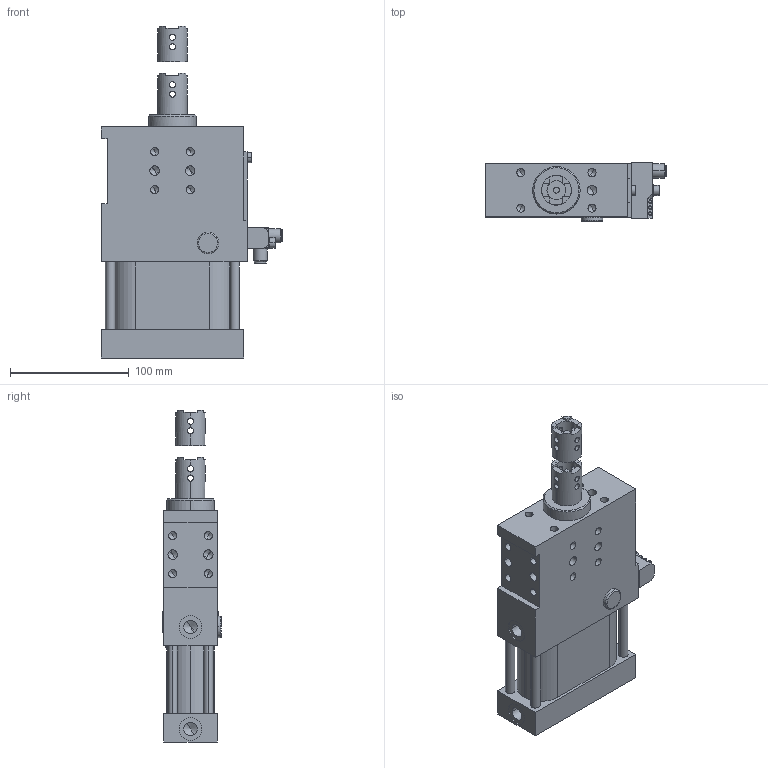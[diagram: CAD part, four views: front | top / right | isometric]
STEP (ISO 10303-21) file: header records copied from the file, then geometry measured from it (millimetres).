
FILE_DESCRIPTION(('CATIA V5 STEP Exchange','CAx-IF Rec.Pracs.--- Model Styling and Organization---1.2---2011-12-15'),'2;1');
FILE_NAME('G:\Konstruktion\Modelle\Step\SZK_63_BR3_T12_TUENKERS.stp','2016-04-22T11:20:29+00:00',('none'),('none'),'CATIA Version 5-6 Release 2014 SP1 HF29','CATIA V5 STEP AP214','none');
FILE_SCHEMA(('AUTOMOTIVE_DESIGN { 1 0 10303 214 1 1 1 1 }'));
Length unit declared in the file: millimetre
Products named in the file (1): SZK_63_BR3_T12_TUENKERS
Bounding box: 153 x 49.5 x 280 mm (x, y, z)
Volume: 1002748.3 mm3; surface area: 100934.4 mm2
Topology: 2 solids, 2 shells, 307 faces, 912 edges, 562 vertices
Faces by surface type: cylinder 128, plane 89, cone 57, sphere 24, torus 9
Entity records: 10174 total; most frequent: CARTESIAN_POINT 2524, ORIENTED_EDGE 1676, DIRECTION 1176, EDGE_CURVE 838, AXIS2_PLACEMENT_3D 574, VERTEX_POINT 562, EDGE_LOOP 376, VECTOR 368
